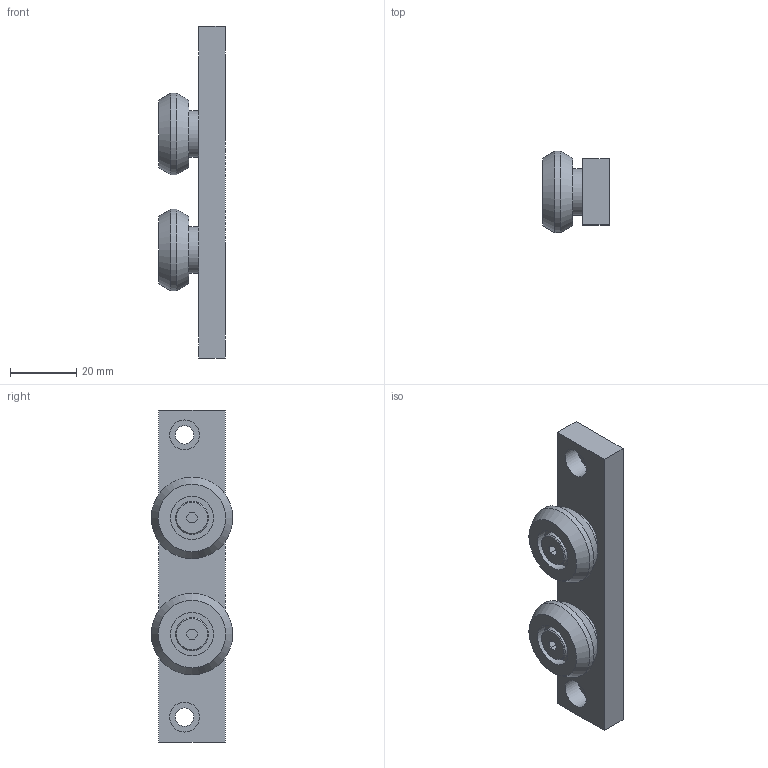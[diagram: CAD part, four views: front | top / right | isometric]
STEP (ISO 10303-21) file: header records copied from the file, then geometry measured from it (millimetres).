
FILE_DESCRIPTION (( 'STEP AP214' ), '1' );
FILE_NAME ('N40130_N30184_L16201.step', '2024-12-03T16:10:47', ( '' ), ( '' ), 'SwSTEP 2.0', 'SolidWorks 2023', '' );
FILE_SCHEMA (( 'AUTOMOTIVE_DESIGN' ));
Length unit declared in the file: millimetre
Products named in the file (4): L16201; N30184; N40130; N40130_N30184_L16201
Assembly tree (5 placements, depth 2):
  N40130_N30184_L16201
    N40130
    N30184  x2
    L16201  x2
Bounding box: 20 x 24.5 x 100 mm (x, y, z)
Volume: 23140.5 mm3; surface area: 10958.6 mm2
Topology: 5 solids, 5 shells, 82 faces, 166 edges, 106 vertices
Faces by surface type: plane 38, cylinder 22, cone 16, torus 6
Full cylindrical faces by diameter (mm): 4 x2, 4.2 x2, 5 x2, 5.5 x2, 6 x2, 6.1 x2, 9 x2, 10 x2, 13 x2, 14 x2, 24.5 x2
Entity records: 1251 total; most frequent: DIRECTION 218, CARTESIAN_POINT 182, ORIENTED_EDGE 136, AXIS2_PLACEMENT_3D 94, EDGE_LOOP 90, EDGE_CURVE 68, FACE_OUTER_BOUND 65, VERTEX_POINT 58
